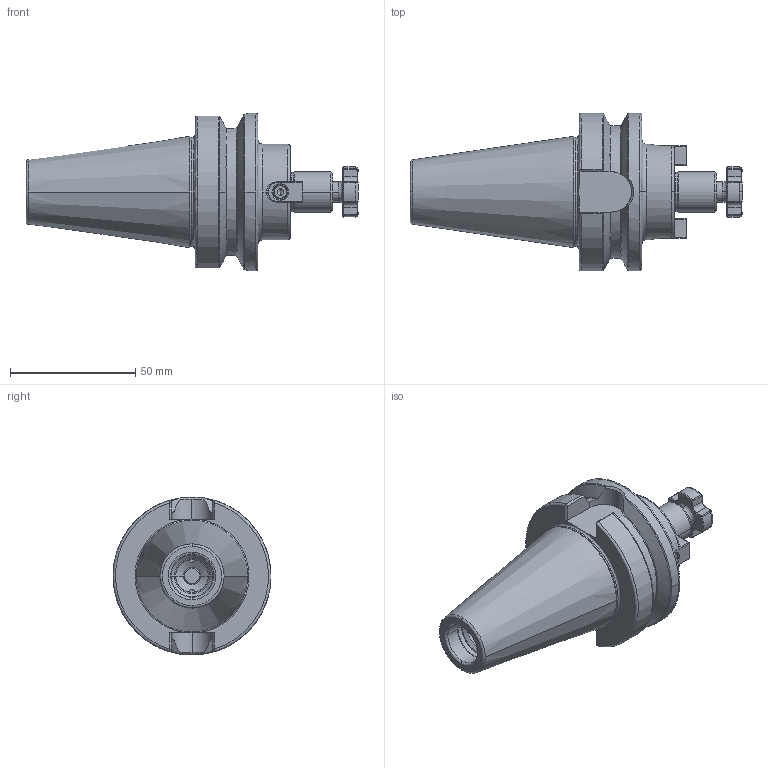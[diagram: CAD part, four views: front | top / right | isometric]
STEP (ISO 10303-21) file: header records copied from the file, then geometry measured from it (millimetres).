
FILE_DESCRIPTION (( 'STEP AP214' ), '1' );
FILE_NAME ('04-0911.STEP', '2022-08-31T21:01:24', ( '' ), ( '' ), 'SwSTEP 2.0', 'SolidWorks 2021', '' );
FILE_SCHEMA (( 'AUTOMOTIVE_DESIGN' ));
Length unit declared in the file: inch
Products named in the file (1): 04-0911
Bounding box: 132.4 x 63 x 63 mm (x, y, z)
Volume: 139260.5 mm3; surface area: 28121.7 mm2
Topology: 2 solids, 4 shells, 347 faces, 874 edges, 530 vertices
Faces by surface type: plane 130, cylinder 73, cone 73, bspline 71
Entity records: 18639 total; most frequent: CARTESIAN_POINT 6210, ORIENTED_EDGE 1738, DIRECTION 1524, EDGE_CURVE 869, AXIS2_PLACEMENT_3D 558, VERTEX_POINT 530, LINE 408, VECTOR 408
